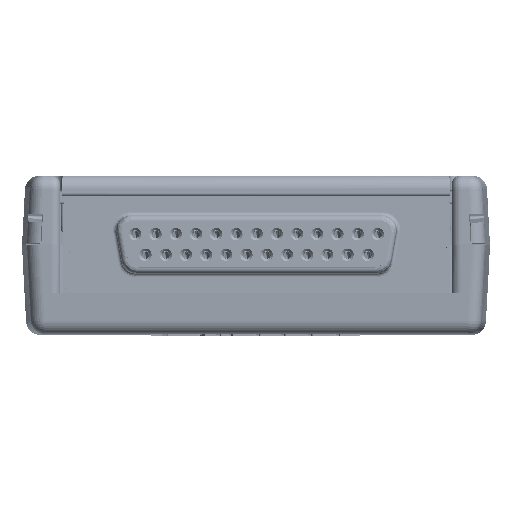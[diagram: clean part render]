
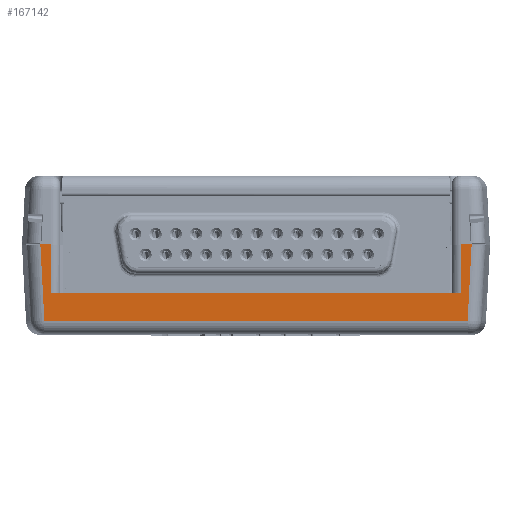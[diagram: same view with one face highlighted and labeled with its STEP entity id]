
A CAD part, top view. The second image highlights one B-rep face of the part: STEP entity #167142.
In plain terms, the highlighted planar face has unit normal (0, -0.052, 0.999).
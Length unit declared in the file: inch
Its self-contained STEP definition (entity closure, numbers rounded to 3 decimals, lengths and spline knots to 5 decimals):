
#3680 = LINE ( 'NONE', #161119, #77133 ) ;
#4750 = LINE ( 'NONE', #276928, #404679 ) ;
#9988 = DIRECTION ( 'NONE',  ( 1., 0., 0. ) ) ;
#11922 = VECTOR ( 'NONE', #523605, 39.37008 ) ;
#20951 = CARTESIAN_POINT ( 'NONE',  ( -2.2945, 0.224, -0.01363 ) ) ;
#22890 = VERTEX_POINT ( 'NONE', #353460 ) ;
#36205 = LINE ( 'NONE', #404749, #11922 ) ;
#49569 = PLANE ( 'NONE',  #226584 ) ;
#55040 = EDGE_CURVE ( 'NONE', #655779, #563316, #302579, .T. ) ;
#77133 = VECTOR ( 'NONE', #480669, 39.37008 ) ;
#108867 = CARTESIAN_POINT ( 'NONE',  ( -0.05012, 0.484, 0. ) ) ;
#124559 = EDGE_CURVE ( 'NONE', #324168, #254215, #3680, .T. ) ;
#139222 = EDGE_CURVE ( 'NONE', #426150, #563316, #4750, .T. ) ;
#161119 = CARTESIAN_POINT ( 'NONE',  ( -0.1325, 0.484, 0. ) ) ;
#164350 = VERTEX_POINT ( 'NONE', #351109 ) ;
#167142 = ADVANCED_FACE ( 'NONE', ( #392418 ), #49569, .T. ) ;
#168044 = DIRECTION ( 'NONE',  ( 0., -0.999, -0.052 ) ) ;
#186022 = VECTOR ( 'NONE', #385971, 39.37008 ) ;
#187949 = ORIENTED_EDGE ( 'NONE', *, *, #124559, .T. ) ;
#226584 = AXIS2_PLACEMENT_3D ( 'NONE', #108867, #586066, #168044 ) ;
#232463 = EDGE_CURVE ( 'NONE', #324168, #164350, #437357, .T. ) ;
#240305 = LINE ( 'NONE', #553004, #436415 ) ;
#253949 = EDGE_CURVE ( 'NONE', #22890, #544416, #293905, .T. ) ;
#254215 = VERTEX_POINT ( 'NONE', #447850 ) ;
#276928 = CARTESIAN_POINT ( 'NONE',  ( -0.05012, 0.484, 0. ) ) ;
#278915 = DIRECTION ( 'NONE',  ( 1., 0., 0. ) ) ;
#283414 = CARTESIAN_POINT ( 'NONE',  ( -0.05012, 0.484, 0. ) ) ;
#290282 = DIRECTION ( 'NONE',  ( 0.052, -0.997, -0.052 ) ) ;
#293905 = LINE ( 'NONE', #322461, #612643 ) ;
#302579 = LINE ( 'NONE', #345808, #417251 ) ;
#322461 = CARTESIAN_POINT ( 'NONE',  ( -0.02537, 0.07107, -0.02164 ) ) ;
#324168 = VERTEX_POINT ( 'NONE', #602292 ) ;
#341282 = LINE ( 'NONE', #20951, #186022 ) ;
#341375 = CARTESIAN_POINT ( 'NONE',  ( -2.3445, 0.224, -0.01363 ) ) ;
#345808 = CARTESIAN_POINT ( 'NONE',  ( -2.3445, 0.484, 0. ) ) ;
#351109 = CARTESIAN_POINT ( 'NONE',  ( -0.0749, 0.484, 0. ) ) ;
#353460 = CARTESIAN_POINT ( 'NONE',  ( -2.38046, 0.07107, -0.02164 ) ) ;
#385971 = DIRECTION ( 'NONE',  ( 1., 0., 0. ) ) ;
#388292 = ORIENTED_EDGE ( 'NONE', *, *, #253949, .T. ) ;
#392418 = FACE_OUTER_BOUND ( 'NONE', #463170, .T. ) ;
#395971 = CARTESIAN_POINT ( 'NONE',  ( -2.3445, 0.484, 0. ) ) ;
#401216 = CARTESIAN_POINT ( 'NONE',  ( -0.09654, 0.07107, -0.02164 ) ) ;
#404679 = VECTOR ( 'NONE', #441319, 39.37008 ) ;
#404749 = CARTESIAN_POINT ( 'NONE',  ( -0.07483, 0.48529, 0.00007 ) ) ;
#417251 = VECTOR ( 'NONE', #549223, 39.37008 ) ;
#426150 = VERTEX_POINT ( 'NONE', #561785 ) ;
#426247 = ORIENTED_EDGE ( 'NONE', *, *, #590830, .F. ) ;
#436415 = VECTOR ( 'NONE', #290282, 39.37008 ) ;
#437357 = LINE ( 'NONE', #283414, #527286 ) ;
#441319 = DIRECTION ( 'NONE',  ( 1., 0., 0. ) ) ;
#441662 = ORIENTED_EDGE ( 'NONE', *, *, #55040, .T. ) ;
#447850 = CARTESIAN_POINT ( 'NONE',  ( -0.1325, 0.224, -0.01363 ) ) ;
#457605 = ORIENTED_EDGE ( 'NONE', *, *, #467848, .T. ) ;
#463170 = EDGE_LOOP ( 'NONE', ( #578327, #187949, #426247, #441662, #466162, #457605, #388292, #607506 ) ) ;
#466162 = ORIENTED_EDGE ( 'NONE', *, *, #139222, .F. ) ;
#467848 = EDGE_CURVE ( 'NONE', #426150, #22890, #240305, .T. ) ;
#480669 = DIRECTION ( 'NONE',  ( 0., -0.999, -0.052 ) ) ;
#523605 = DIRECTION ( 'NONE',  ( 0.052, 0.997, 0.052 ) ) ;
#527286 = VECTOR ( 'NONE', #278915, 39.37008 ) ;
#544416 = VERTEX_POINT ( 'NONE', #401216 ) ;
#549223 = DIRECTION ( 'NONE',  ( 0., 0.999, 0.052 ) ) ;
#553004 = CARTESIAN_POINT ( 'NONE',  ( -2.39568, 0.36141, -0.00642 ) ) ;
#561785 = CARTESIAN_POINT ( 'NONE',  ( -2.4021, 0.484, 0. ) ) ;
#563316 = VERTEX_POINT ( 'NONE', #395971 ) ;
#578327 = ORIENTED_EDGE ( 'NONE', *, *, #232463, .F. ) ;
#586066 = DIRECTION ( 'NONE',  ( 0., -0.052, 0.999 ) ) ;
#590830 = EDGE_CURVE ( 'NONE', #655779, #254215, #341282, .T. ) ;
#591915 = EDGE_CURVE ( 'NONE', #544416, #164350, #36205, .T. ) ;
#602292 = CARTESIAN_POINT ( 'NONE',  ( -0.1325, 0.484, 0. ) ) ;
#607506 = ORIENTED_EDGE ( 'NONE', *, *, #591915, .T. ) ;
#612643 = VECTOR ( 'NONE', #9988, 39.37008 ) ;
#655779 = VERTEX_POINT ( 'NONE', #341375 ) ;
